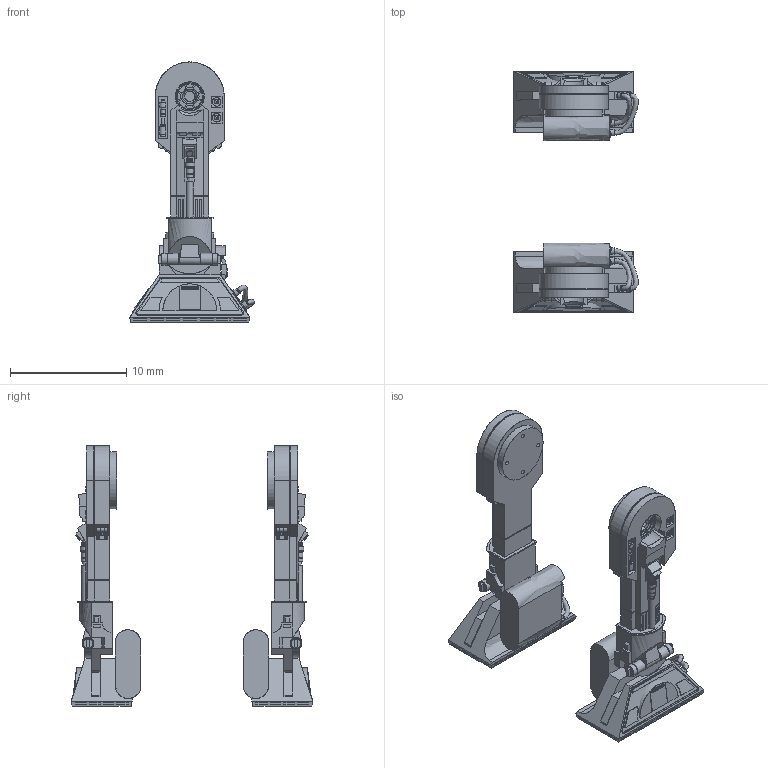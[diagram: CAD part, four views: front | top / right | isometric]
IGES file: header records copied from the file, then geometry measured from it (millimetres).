
Global section: file name: C:\Documents and Settings\Owner\; native system: Rhinoceros ( Apr 24 2002 ); preprocessor: Trout Lake IGES 012 Apr 24 2002; date: 051029.025332; units: millimetre
Bounding box: 10.75 x 20.82 x 22.41 mm (x, y, z)
Surface area: 2331.6 mm2 (no closed solid volume)
Topology: 0 solids, 0 shells, 1761 faces, 10760 edges, 10407 vertices
Faces by surface type: bspline 1761
